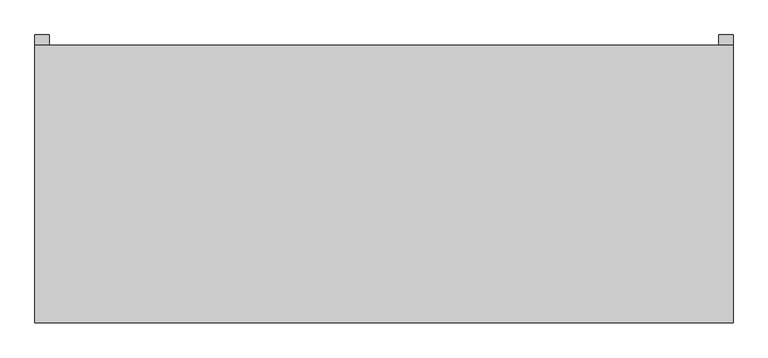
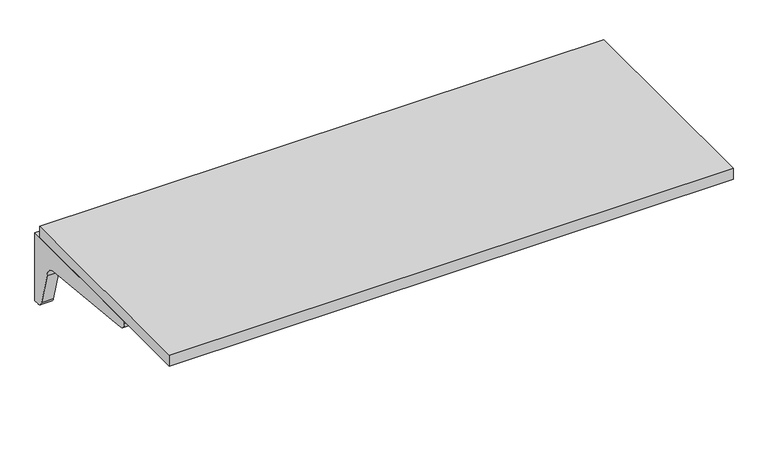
"""IFC4 building model written with IfcOpenShell, lengths in millimetres: furniture geometry."""

from ifc_helpers import new_model, si_unit, point, frame, frame_2d, origin, place, context, project, spatial, polyline, circle_curve, trimmed, segment, composite_curve, outline, extrude, source, transform, mapped, element, save


def furniture_8f8ee175(model_context):
    return source(origin(), model_context, "Body", "SweptSolid", [
        extrude(outline(composite_curve([segment(polyline([(314.325, 603.25), (314.325, 409.575), (301.625, 409.575)]), True, "CONTINUOUS"), segment(trimmed(circle_curve(frame_2d((299.3081081, 426.7371622)), 17.3178462), [point((301.625, 409.575))], [point((282.575, 422.275))], False, "CARTESIAN"), True, "CONTINUOUS"), segment(polyline([(282.575, 422.275), (257.175, 514.35)]), True, "CONTINUOUS"), segment(trimmed(circle_curve(frame_2d((221.8170455, 510.7420455)), 35.5415572), [point((257.175, 514.35))], [point((225.425, 546.1))], True, "CARTESIAN"), True, "CONTINUOUS"), segment(polyline([(225.425, 546.1), (-85.725, 577.85)]), True, "CONTINUOUS"), segment(trimmed(circle_curve(frame_2d((-85.725, 596.9)), 19.05), [point((-85.725, 577.85))], [point((-104.775, 596.9))], False, "CARTESIAN"), True, "CONTINUOUS"), segment(polyline([(-104.775, 596.9), (-104.775, 603.25), (314.325, 603.25)]), True, "CONTINUOUS")], self_intersect=False)), frame((730.25, 0.0, 0.0), z_axis=(1.0, 0.0, 0.0), x_axis=(0.0, 1.0, 0.0)), (0.0, 0.0, 1.0), 31.75),
        extrude(outline(composite_curve([segment(polyline([(314.325, 603.25), (314.325, 409.575), (301.625, 409.575)]), True, "CONTINUOUS"), segment(trimmed(circle_curve(frame_2d((299.3081081, 426.7371622)), 17.3178462), [point((301.625, 409.575))], [point((282.575, 422.275))], False, "CARTESIAN"), True, "CONTINUOUS"), segment(polyline([(282.575, 422.275), (257.175, 514.35)]), True, "CONTINUOUS"), segment(trimmed(circle_curve(frame_2d((221.8170455, 510.7420455)), 35.5415572), [point((257.175, 514.35))], [point((225.425, 546.1))], True, "CARTESIAN"), True, "CONTINUOUS"), segment(polyline([(225.425, 546.1), (-85.725, 577.85)]), True, "CONTINUOUS"), segment(trimmed(circle_curve(frame_2d((-85.725, 596.9)), 19.05), [point((-85.725, 577.85))], [point((-104.775, 596.9))], False, "CARTESIAN"), True, "CONTINUOUS"), segment(polyline([(-104.775, 596.9), (-104.775, 603.25), (314.325, 603.25)]), True, "CONTINUOUS")], self_intersect=False)), frame((-762.0, 0.0, 0.0), z_axis=(1.0, 0.0, 0.0), x_axis=(0.0, 1.0, 0.0)), (0.0, 0.0, 1.0), 31.75),
        extrude(outline(polyline([(-762.0, 292.1), (762.0, 292.1), (762.0, -314.325), (-762.0, -314.325), (-762.0, 292.1)])), frame((0.0, 0.0, 603.25), z_axis=(0.0, 0.0, 1.0), x_axis=(1.0, 0.0, 0.0)), (0.0, 0.0, 1.0), 31.75),
    ])


if __name__ == "__main__":
    model = new_model("IFC4")
    model_context = context("Model", 3, world=origin())
    ifc_project = project(units=[si_unit("LENGTHUNIT", "METRE", prefix="MILLI")], contexts=[model_context])
    site = spatial("IfcSite", under=ifc_project)
    building = spatial("IfcBuilding", under=site)
    placement = place(None, origin())
    furniture_shape = furniture_8f8ee175(model_context)
    element("IfcFurniture", 1, ObjectType="HermanMiller_ActionOffice_A2310_Sq-EdgeRectangularWorkSurface : 24\"D x 60\"W", at=placement, inside=building, context=model_context, shape_type="MappedRepresentation", body=[
        mapped(furniture_shape, transform((0.0, 0.0, 0.0), x_axis=(1.0, 0.0, 0.0), y_axis=(0.0, 1.0, 0.0), z_axis=(0.0, 0.0, 1.0))),
    ])
    save(model, "model.ifc")
